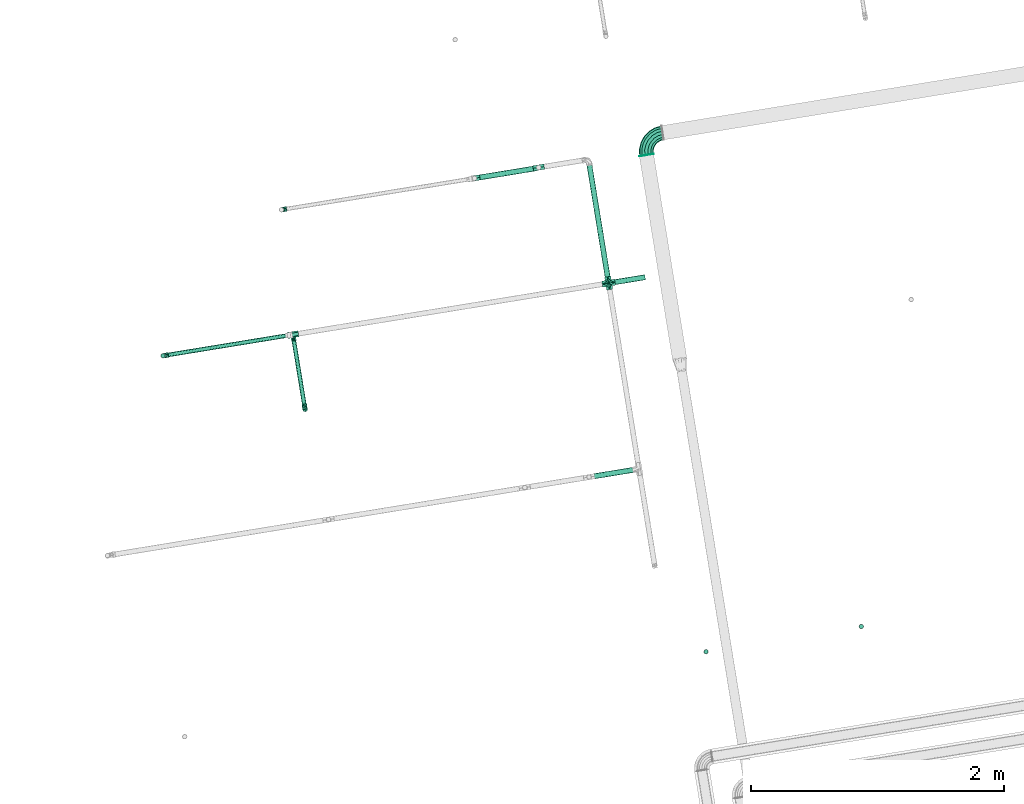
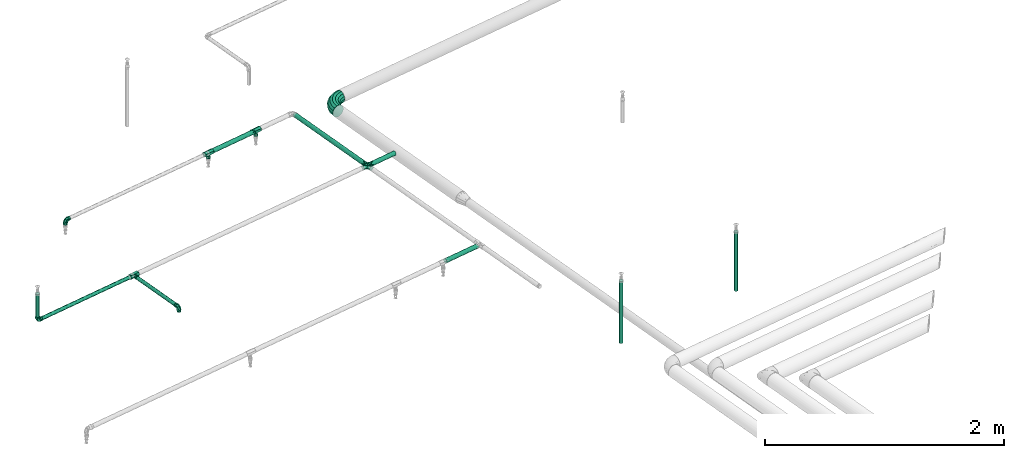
# One storey, part 22 of 46: 9 flow fittings, 9 flow segments.
"""IFC2X3 building model written with IfcOpenShell, lengths in millimetres."""

import ifcopenshell
import ifcopenshell.guid

model = None  # the IFC model being written
_history = None  # IfcOwnerHistory: only IFC2X3 demands one
_inside = {}  # id of a spatial element -> (the spatial element, [elements in it])
_under = {}  # id of a project, library or spatial element -> (it, [spatial elements below it])
_declared = {}  # id of a project -> (the project, [libraries it declares])
_typed = {}  # id of a type object -> (the type object, [elements of that type])
_made_of = {}  # id of a material, layer set ... -> (it, [elements and type objects made of it])


def new_model(schema):
    """Start an empty IFC model of exactly this schema.

    Asked for "IFC4X3", IfcOpenShell would pick the latest addendum, in which some entities
    have other attributes; the version numbers below select the first issue.
    IFC2X3 requires an IfcOwnerHistory on every rooted entity: one is made here for all.
    """
    global model, _history
    if schema == "IFC4X3":
        model = ifcopenshell.file(schema_version=(4, 3, 0, 0))
    else:
        model = ifcopenshell.file(schema=schema)
    _inside.clear()
    _under.clear()
    _declared.clear()
    _typed.clear()
    _made_of.clear()
    _history = None
    if model.schema == "IFC2X3":
        org = make("IfcOrganization", Name="unknown")
        user = make(
            "IfcPersonAndOrganization",
            ThePerson=make("IfcPerson", FamilyName="unknown"),
            TheOrganization=org,
        )
        app = make(
            "IfcApplication",
            ApplicationDeveloper=org,
            Version="unknown",
            ApplicationFullName="unknown",
            ApplicationIdentifier="unknown",
        )
        _history = make(
            "IfcOwnerHistory",
            OwningUser=user,
            OwningApplication=app,
            ChangeAction="ADDED",
            CreationDate=0,
        )
    return model


def make(cls, **values):
    """One entity of the class cls with the attributes given. An attribute that is None is left unset."""
    return model.create_entity(
        cls, **{name: value for name, value in values.items() if value is not None}
    )


def entity(cls, *values):
    """Any entity or typed value of the class cls, its attributes in the order of the schema. None: left unset."""
    e = model.create_entity(cls)
    for i, value in enumerate(values):
        if value is not None:
            e[i] = value
    return e


def rooted(cls, **values):
    """An entity with a GlobalId (a new one), such as an element, a storey or a relation."""
    return make(cls, GlobalId=ifcopenshell.guid.new(), OwnerHistory=_history, **values)


def si_unit(unit_type, name, prefix=None):
    """IfcSIUnit, for example si_unit("LENGTHUNIT", "METRE", prefix="MILLI")."""
    return make("IfcSIUnit", UnitType=unit_type, Prefix=prefix, Name=name)


def converted_unit(unit_type, name, factor, base, dimensions=None, offset=None):
    """IfcConversionBasedUnit, such as the inch: factor (a typed value) times the base unit."""
    return make(
        "IfcConversionBasedUnit"
        if offset is None
        else "IfcConversionBasedUnitWithOffset",
        ConversionOffset=offset,
        Dimensions=None
        if dimensions is None
        else entity("IfcDimensionalExponents", *dimensions),
        UnitType=unit_type,
        Name=name,
        ConversionFactor=make(
            "IfcMeasureWithUnit", ValueComponent=factor, UnitComponent=base
        ),
    )


def derived_unit(unit_type, elements):
    """IfcDerivedUnit: a product of units, each with its exponent."""
    return make(
        "IfcDerivedUnit",
        Elements=[
            make("IfcDerivedUnitElement", Unit=unit, Exponent=power)
            for unit, power in elements
        ],
        UnitType=unit_type,
    )


def assignment(units):
    """IfcUnitAssignment: the units of a project."""
    return None if units is None else make("IfcUnitAssignment", Units=units)


def point(xyz):
    """IfcCartesianPoint."""
    return None if xyz is None else make("IfcCartesianPoint", Coordinates=xyz)


def direction(xyz):
    """IfcDirection."""
    return None if xyz is None else make("IfcDirection", DirectionRatios=xyz)


def frame(location, z_axis=None, x_axis=None):
    """IfcAxis2Placement3D, a coordinate frame: its origin and axes. An axis left out is left unset."""
    return make(
        "IfcAxis2Placement3D",
        Location=point(location),
        Axis=direction(z_axis),
        RefDirection=direction(x_axis),
    )


def frame_2d(location, x_axis=None):
    """IfcAxis2Placement2D, a coordinate frame in the plane: its origin and x axis."""
    return make(
        "IfcAxis2Placement2D", Location=point(location), RefDirection=direction(x_axis)
    )


def origin():
    """The frame at (0, 0, 0) with its axes left unset."""
    return frame((0.0, 0.0, 0.0))


def origin_with_axes():
    """The frame at (0, 0, 0) with the z axis (0, 0, 1) and the x axis (1, 0, 0) written out."""
    return frame((0.0, 0.0, 0.0), z_axis=(0.0, 0.0, 1.0), x_axis=(1.0, 0.0, 0.0))


def origin_2d_with_axis():
    """The frame at (0, 0) in the plane with the x axis (1, 0) written out."""
    return frame_2d((0.0, 0.0), x_axis=(1.0, 0.0))


def place(relative_to, where):
    """IfcLocalPlacement: puts the frame where relative to a parent placement (None: the world)."""
    return make(
        "IfcLocalPlacement", PlacementRelTo=relative_to, RelativePlacement=where
    )


def context(
    kind, dimensions, precision=None, world=None, true_north=None, identifier=None
):
    """IfcGeometricRepresentationContext, for example the 3D "Model" context."""
    return make(
        "IfcGeometricRepresentationContext",
        ContextIdentifier=identifier,
        ContextType=kind,
        CoordinateSpaceDimension=dimensions,
        Precision=precision,
        WorldCoordinateSystem=world,
        TrueNorth=true_north,
    )


def subcontext(parent, identifier, kind, view, scale=None):
    """IfcGeometricRepresentationSubContext, for example "Body" below "Model"."""
    return make(
        "IfcGeometricRepresentationSubContext",
        ContextIdentifier=identifier,
        ContextType=kind,
        ParentContext=parent,
        TargetScale=scale,
        TargetView=view,
    )


def project(units=None, contexts=None):
    """IfcProject with its units and contexts."""
    return rooted(
        "IfcProject",
        Name="project",
        RepresentationContexts=contexts,
        UnitsInContext=assignment(units),
    )


def spatial(cls, under=None, at=None, **own):
    """A site, building, storey or space (cls), placed at a placement, below another one or the project."""
    s = rooted(cls, ObjectPlacement=at, **own)
    if under is not None:
        _under.setdefault(under.id(), (under, []))[1].append(s)
    return s


def profile(cls, at=None, kind="AREA", **sizes):
    """A parametric profile (cls). Its sizes go by their IFC names, for example OverallWidth=200.0."""
    return make(cls, ProfileType=kind, Position=at, **sizes)


def circle(**sizes):
    """IfcCircleProfileDef."""
    return profile("IfcCircleProfileDef", **sizes)


def extrude(swept, where, along, depth):
    """IfcExtrudedAreaSolid: the profile swept, set in the frame where, extruded along a direction by depth."""
    return make(
        "IfcExtrudedAreaSolid",
        SweptArea=swept,
        Position=where,
        ExtrudedDirection=direction(along),
        Depth=depth,
    )


def faces_of(points, faces, orient=None, outer=None):
    """IfcFace entities. A face is a list of loops; a loop is a list of indices into points, from 0.

    orient and outer hold one flag for each loop. By default every Orientation is true, the
    first loop of a face is its IfcFaceOuterBound and the others are IfcFaceBound.
    """
    made = []
    for i, loops in enumerate(faces):
        bounds = []
        for j, loop in enumerate(loops):
            is_outer = j == 0 if outer is None else outer[i][j]
            bounds.append(
                make(
                    "IfcFaceOuterBound" if is_outer else "IfcFaceBound",
                    Bound=make("IfcPolyLoop", Polygon=[points[k] for k in loop]),
                    Orientation=True if orient is None else orient[i][j],
                )
            )
        made.append(make("IfcFace", Bounds=bounds))
    return made


def faceted_brep(points, faces, orient=None, outer=None, voids=None):
    """IfcFacetedBrep: a solid bounded by flat faces; with voids (closed shells), ...WithVoids."""
    shared = [point(p) for p in points]
    hull = make("IfcClosedShell", CfsFaces=faces_of(shared, faces, orient, outer))
    if voids is None:
        return make("IfcFacetedBrep", Outer=hull)
    return make(
        "IfcFacetedBrepWithVoids",
        Outer=hull,
        Voids=[
            make(cls, CfsFaces=faces_of(shared, fs, o, b)) for cls, fs, o, b in voids
        ],
    )


def shape(context_of_items, identifier, shape_type, items):
    """IfcShapeRepresentation: the items that make up one representation, for example the "Body"."""
    return make(
        "IfcShapeRepresentation",
        ContextOfItems=context_of_items,
        RepresentationIdentifier=identifier,
        RepresentationType=shape_type,
        Items=items,
    )


def source(mapping_origin, context_of_items, identifier, shape_type, items):
    """IfcRepresentationMap: a shape defined once, which mapped items show again and again."""
    return make(
        "IfcRepresentationMap",
        MappingOrigin=mapping_origin,
        MappedRepresentation=shape(context_of_items, identifier, shape_type, items),
    )


def transform(
    local_origin,
    x_axis=None,
    y_axis=None,
    z_axis=None,
    scale=None,
    scale2=None,
    scale3=None,
    uniform=True,
):
    """IfcCartesianTransformationOperator3D, or its non-uniform kind. x_axis, y_axis, z_axis: its Axis1, 2, 3."""
    if uniform:
        return make(
            "IfcCartesianTransformationOperator3D",
            Axis1=direction(x_axis),
            Axis2=direction(y_axis),
            LocalOrigin=point(local_origin),
            Scale=scale,
            Axis3=direction(z_axis),
        )
    return make(
        "IfcCartesianTransformationOperator3DnonUniform",
        Axis1=direction(x_axis),
        Axis2=direction(y_axis),
        LocalOrigin=point(local_origin),
        Scale=scale,
        Axis3=direction(z_axis),
        Scale2=scale2,
        Scale3=scale3,
    )


def mapped(mapping_source, mapping_target):
    """IfcMappedItem: shows the shape of a source again, moved by a transform."""
    return make(
        "IfcMappedItem", MappingSource=mapping_source, MappingTarget=mapping_target
    )


def material(Name=None, Category=None):
    """IfcMaterial."""
    return make("IfcMaterial", Name=Name, Category=Category)


def made_of(thing, what):
    """Note that an element or type object is made of a material, layer set ...; save() writes the relation."""
    if what is not None:
        _made_of.setdefault(what.id(), (what, []))[1].append(thing)
    return thing


def type_object(cls, material=None, **own):
    """A type object (cls), such as IfcWallType, which elements share."""
    return made_of(rooted(cls, **own), material)


def element(
    cls,
    number,
    at=None,
    inside=None,
    cuts=None,
    type_object=None,
    material=None,
    context=None,
    identifier="Body",
    shape_type=None,
    held_by="IfcProductDefinitionShape",
    body=None,
    shapes=None,
    **own,
):
    """One element of the class cls, such as IfcWall. Its Tag is "e" and its number.

    at: its placement. inside: the storey or other place that contains it. cuts: it is an
    opening in that element (IfcRelVoidsElement). A single representation is given by context,
    identifier, shape_type and body (its items); several are given by shapes. held_by: the class
    of the entity that holds the representations. save() writes the other relations.
    """
    e = rooted(cls, Tag="e%d" % number, ObjectPlacement=at, **own)
    if body is not None:
        shapes = [shape(context, identifier, shape_type, body)]
    if shapes is not None:
        e.Representation = make(held_by, Representations=shapes)
    if inside is not None:
        _inside.setdefault(inside.id(), (inside, []))[1].append(e)
    if cuts is not None:
        rooted(
            "IfcRelVoidsElement", RelatingBuildingElement=cuts, RelatedOpeningElement=e
        )
    if type_object is not None:
        _typed.setdefault(type_object.id(), (type_object, []))[1].append(e)
    return made_of(e, material)


def aggregate(whole, parts):
    """IfcRelAggregates: a whole, such as a stair, and the parts it consists of."""
    return rooted("IfcRelAggregates", RelatingObject=whole, RelatedObjects=parts)


def save(model, path):
    """Write the relations noted so far, then the file.

    IfcRelAggregates (storeys below a building ...), IfcRelContainedInSpatialStructure (elements
    in a storey), IfcRelDefinesByType, IfcRelAssociatesMaterial and IfcRelDeclares: one each for
    every whole, place, type object, material and project.
    """
    for whole, parts in _under.values():
        aggregate(whole, parts)
    for where, things in _inside.values():
        rooted(
            "IfcRelContainedInSpatialStructure",
            RelatedElements=things,
            RelatingStructure=where,
        )
    for kind, things in _typed.values():
        rooted("IfcRelDefinesByType", RelatedObjects=things, RelatingType=kind)
    for what, things in _made_of.values():
        rooted("IfcRelAssociatesMaterial", RelatedObjects=things, RelatingMaterial=what)
    for by, libraries in _declared.values():
        rooted("IfcRelDeclares", RelatingContext=by, RelatedDefinitions=libraries)
    model.write(path)


model = new_model("IFC2X3")

# Units and contexts
model_context = context("Model", 3, precision=0.01, world=origin(), true_north=direction((6.12323399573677e-17, 1.0)))
plan_context = context("Plan", 3, precision=1e-05, world=origin_with_axes())
body_context = subcontext(model_context, "Body", "Model", "MODEL_VIEW")
ifc_project = project(units=[converted_unit("PLANEANGLEUNIT", "DEGREE", entity("IfcPositiveLengthMeasure", 0.0174532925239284), si_unit("PLANEANGLEUNIT", "RADIAN"), dimensions=[0, 0, 0, 0, 0, 0, 0]), si_unit("AREAUNIT", "SQUARE_METRE"), si_unit("LENGTHUNIT", "METRE", prefix="MILLI"), si_unit("MASSUNIT", "GRAM", prefix="KILO"), si_unit("POWERUNIT", "WATT"), si_unit("PRESSUREUNIT", "PASCAL", prefix="KILO"), si_unit("FORCEUNIT", "NEWTON", prefix="KILO"), si_unit("ELECTRICVOLTAGEUNIT", "VOLT"), si_unit("ELECTRICCURRENTUNIT", "AMPERE"), si_unit("THERMODYNAMICTEMPERATUREUNIT", "DEGREE_CELSIUS"), si_unit("TIMEUNIT", "SECOND"), si_unit("VOLUMEUNIT", "CUBIC_METRE"), derived_unit("LINEARVELOCITYUNIT", [(si_unit("LENGTHUNIT", "METRE"), 1), (si_unit("TIMEUNIT", "SECOND"), -1)]), derived_unit("VOLUMETRICFLOWRATEUNIT", [(si_unit("VOLUMEUNIT", "CUBIC_METRE"), 1), (si_unit("TIMEUNIT", "SECOND"), -1)]), derived_unit("THERMALTRANSMITTANCEUNIT", [(si_unit("POWERUNIT", "WATT"), 1), (si_unit("THERMODYNAMICTEMPERATUREUNIT", "KELVIN"), -1), (si_unit("AREAUNIT", "SQUARE_METRE"), -1)]), derived_unit("SOUNDPRESSUREUNIT", [(si_unit("PRESSUREUNIT", "PASCAL"), 1)])], contexts=[model_context, plan_context])

# Site, building, storey
site_placement = place(None, frame((-3.09682673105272e-06, 1.93776733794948e-05, 0.0), z_axis=(0.0, 0.0, 1.0), x_axis=(-0.160806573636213, 0.986985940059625, 0.0)))
site = spatial("IfcSite", under=ifc_project, at=site_placement, Name="Default", CompositionType="ELEMENT")
building_placement = place(site_placement, frame((0.0, 0.0, 0.0), z_axis=(0.0, 0.0, 1.0), x_axis=(1.0, -2.77555756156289e-17, 0.0)))
building = spatial("IfcBuilding", under=site, at=building_placement, Name="Bygning (endres i Project Information)", CompositionType="ELEMENT")
storey_placement = place(building_placement, frame((0.0, 0.0, 51360.0000000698), z_axis=(0.0, 0.0, 1.0), x_axis=(1.0, -2.77555756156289e-17, 0.0)))
storey = spatial("IfcBuildingStorey", under=building, at=storey_placement, Name="H01-Nivå D+0,36", CompositionType="ELEMENT", Elevation=51360.0000000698)

# Flow fittings
ifc_material_1 = material(Name="3320.001")
pipe_fitting_type_1 = type_object("IfcPipeFittingType", Name="Bend sveist:EN 10253-1 S235 3D ISO", PredefinedType="NOTDEFINED", material=ifc_material_1)
shared_shape_1 = source(origin(), body_context, "Body", "Brep", [
    faceted_brep([(-98.6091776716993, -49.9893123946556, 0.0), (-100.073997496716, -44.5225303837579, 24.7964556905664), (-153.0, -51.4903708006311, 24.7964556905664), (-153.0, -57.1500000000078, 0.0), (-104.178331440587, -29.2049475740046, 44.6816692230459), (-153.0, -35.6324421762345, 44.6816692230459), (-110.109265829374, -7.07039909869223, 55.7171301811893), (-153.0, -12.7170713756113, 55.7171301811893), (-116.692106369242, 17.4970962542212, 55.7171301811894), (-153.0, 12.7170713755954, 55.7171301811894), (-122.62304075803, 39.6316447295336, 44.6816692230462), (-153.0, 35.6324421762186, 44.6816692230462), (-126.7273747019, 54.9492275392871, 24.7964556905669), (-153.0, 51.4903708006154, 24.7964556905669), (-128.192194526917, 60.416009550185, 0.0), (-153.0, 57.1499999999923, 0.0), (-126.7273747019, 54.9492275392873, -24.7964556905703), (-153.0, 51.4903708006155, -24.7964556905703), (-122.62304075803, 39.6316447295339, -44.6816692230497), (-153.0, 35.6324421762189, -44.6816692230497), (-116.692106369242, 17.4970962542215, -55.7171301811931), (-153.0, 12.7170713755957, -55.7171301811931), (-110.109265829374, -7.07039909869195, -55.7171301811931), (-153.0, -12.717071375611, -55.7171301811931), (-104.178331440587, -29.2049475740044, -44.6816692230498), (-153.0, -35.6324421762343, -44.6816692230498), (-100.073997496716, -44.5225303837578, -24.7964556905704), (-153.0, -51.4903708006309, -24.7964556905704), (-47.924999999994, -28.9952386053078, 0.0), (-50.7548145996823, -24.0938559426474, 24.7964556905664), (-58.6837789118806, -10.3604869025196, 44.6816692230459), (-70.1414643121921, 9.48480634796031, 55.7171301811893), (-82.8585356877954, 31.5114200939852, 55.7171301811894), (-94.316221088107, 51.3567133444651, 44.6816692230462), (-102.245185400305, 65.0900823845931, 24.7964556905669), (-105.074999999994, 69.9914650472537, 0.0), (-102.245185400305, 65.0900823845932, -24.7964556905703), (-94.3162210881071, 51.3567133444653, -44.6816692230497), (-82.8585356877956, 31.5114200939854, -55.7171301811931), (-70.1414643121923, 9.48480634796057, -55.7171301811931), (-58.6837789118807, -10.3604869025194, -44.6816692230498), (-50.7548145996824, -24.0938559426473, -24.7964556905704), (-4.40150993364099, 4.40150993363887, 0.0), (-8.40347211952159, 8.40347211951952, 24.7964556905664), (-19.6167209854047, 19.6167209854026, 44.6816692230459), (-35.8203350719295, 35.8203350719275, 55.7171301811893), (-53.8049898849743, 53.8049898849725, 55.7171301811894), (-70.0086039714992, 70.0086039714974, 44.6816692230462), (-81.2218528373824, 81.2218528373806, 24.7964556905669), (-85.2238150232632, 85.2238150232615, 0.0), (-81.2218528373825, 81.2218528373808, -24.7964556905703), (-70.0086039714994, 70.0086039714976, -44.6816692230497), (-53.8049898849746, 53.8049898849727, -55.7171301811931), (-35.8203350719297, 35.8203350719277, -55.7171301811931), (-19.6167209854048, 19.6167209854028, -44.6816692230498), (-8.4034721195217, 8.40347211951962, -24.7964556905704), (28.9952386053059, 47.9249999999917, 0.0), (24.0938559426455, 50.7548145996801, 24.7964556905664), (10.3604869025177, 58.6837789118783, 44.6816692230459), (-9.4848063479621, 70.14146431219, 55.7171301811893), (-31.5114200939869, 82.8585356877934, 55.7171301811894), (-51.3567133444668, 94.3162210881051, 44.6816692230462), (-65.0900823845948, 102.245185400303, 24.7964556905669), (-69.9914650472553, 105.074999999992, 0.0), (-65.0900823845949, 102.245185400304, -24.7964556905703), (-51.356713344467, 94.3162210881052, -44.6816692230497), (-31.5114200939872, 82.8585356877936, -55.7171301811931), (-9.48480634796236, 70.1414643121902, -55.7171301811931), (10.3604869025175, 58.6837789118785, -44.6816692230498), (24.0938559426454, 50.7548145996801, -24.7964556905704), (49.989312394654, 98.6091776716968, 0.0), (44.5225303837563, 100.073997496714, 24.7964556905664), (29.204947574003, 104.178331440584, 44.6816692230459), (7.07039909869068, 110.109265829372, 55.7171301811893), (-17.4970962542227, 116.69210636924, 55.7171301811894), (-39.6316447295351, 122.623040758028, 44.6816692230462), (-54.9492275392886, 126.727374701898, 24.7964556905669), (-60.4160095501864, 128.192194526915, 0.0), (-54.9492275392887, 126.727374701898, -24.7964556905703), (-39.6316447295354, 122.623040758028, -44.6816692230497), (-17.497096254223, 116.69210636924, -55.7171301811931), (7.07039909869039, 110.109265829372, -55.7171301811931), (29.2049475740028, 104.178331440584, -44.6816692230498), (44.5225303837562, 100.073997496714, -24.7964556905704), (57.1500000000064, 153.0, 0.0), (51.4903708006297, 153.0, 24.7964556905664), (35.6324421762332, 153.0, 44.6816692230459), (12.71707137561, 153.0, 55.7171301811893), (-12.7170713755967, 153.0, 55.7171301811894), (-35.63244217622, 153.0, 44.6816692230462), (-51.4903708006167, 153.0, 24.7964556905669), (-57.1499999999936, 153.0, 0.0), (-51.4903708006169, 153.0, -24.7964556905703), (-35.6324421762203, 153.0, -44.6816692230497), (-12.717071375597, 153.0, -55.7171301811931), (12.7170713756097, 153.0, -55.7171301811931), (35.6324421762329, 153.0, -44.6816692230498), (51.4903708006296, 153.0, -24.7964556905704)], [[[0, 1, 2, 3]], [[1, 4, 5, 2]], [[4, 6, 7, 5]], [[6, 8, 9, 7]], [[8, 10, 11, 9]], [[10, 12, 13, 11]], [[12, 14, 15, 13]], [[14, 16, 17, 15]], [[16, 18, 19, 17]], [[18, 20, 21, 19]], [[20, 22, 23, 21]], [[22, 24, 25, 23]], [[24, 26, 27, 25]], [[26, 0, 3, 27]], [[28, 29, 1, 0]], [[29, 30, 4, 1]], [[30, 31, 6, 4]], [[31, 32, 8, 6]], [[32, 33, 10, 8]], [[33, 34, 12, 10]], [[34, 35, 14, 12]], [[35, 36, 16, 14]], [[36, 37, 18, 16]], [[37, 38, 20, 18]], [[38, 39, 22, 20]], [[39, 40, 24, 22]], [[40, 41, 26, 24]], [[41, 28, 0, 26]], [[42, 43, 29, 28]], [[43, 44, 30, 29]], [[44, 45, 31, 30]], [[45, 46, 32, 31]], [[46, 47, 33, 32]], [[47, 48, 34, 33]], [[48, 49, 35, 34]], [[49, 50, 36, 35]], [[50, 51, 37, 36]], [[51, 52, 38, 37]], [[52, 53, 39, 38]], [[53, 54, 40, 39]], [[54, 55, 41, 40]], [[55, 42, 28, 41]], [[56, 57, 43, 42]], [[57, 58, 44, 43]], [[58, 59, 45, 44]], [[59, 60, 46, 45]], [[60, 61, 47, 46]], [[61, 62, 48, 47]], [[62, 63, 49, 48]], [[63, 64, 50, 49]], [[64, 65, 51, 50]], [[65, 66, 52, 51]], [[66, 67, 53, 52]], [[67, 68, 54, 53]], [[68, 69, 55, 54]], [[69, 56, 42, 55]], [[70, 71, 57, 56]], [[71, 72, 58, 57]], [[72, 73, 59, 58]], [[73, 74, 60, 59]], [[74, 75, 61, 60]], [[75, 76, 62, 61]], [[76, 77, 63, 62]], [[77, 78, 64, 63]], [[78, 79, 65, 64]], [[79, 80, 66, 65]], [[80, 81, 67, 66]], [[81, 82, 68, 67]], [[82, 83, 69, 68]], [[83, 70, 56, 69]], [[84, 85, 71, 70]], [[85, 86, 72, 71]], [[86, 87, 73, 72]], [[87, 88, 74, 73]], [[88, 89, 75, 74]], [[89, 90, 76, 75]], [[90, 91, 77, 76]], [[91, 92, 78, 77]], [[92, 93, 79, 78]], [[93, 94, 80, 79]], [[94, 95, 81, 80]], [[95, 96, 82, 81]], [[96, 97, 83, 82]], [[97, 84, 70, 83]], [[3, 2, 5, 7, 9, 11, 13, 15, 17, 19, 21, 23, 25, 27]], [[97, 96, 95, 94, 93, 92, 91, 90, 89, 88, 87, 86, 85, 84]]]),
])
flow_fitting_1_placement = place(storey_placement, frame((1004893.45605167, -347096.584018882, 3299.95000040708), z_axis=(0.0, 0.0, 1.0), x_axis=(2.77555756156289e-17, 1.0, 0.0)))
element("IfcFlowFitting", 1, at=flow_fitting_1_placement, inside=storey, type_object=pipe_fitting_type_1, material=ifc_material_1, Name="Bend sveist:EN 10253-1 S235 3D ISO", ObjectType="Bend sveist:EN 10253-1 S235 3D ISO", context=body_context, shape_type="MappedRepresentation", body=[
    mapped(shared_shape_1, transform((0.0, 0.0, 0.0), scale=1.0)),
])
ifc_material_2 = material(Name="<Unnamed>")
pipe_fitting_type_2 = type_object("IfcPipeFittingType", Name="Sveis:Sveis", PredefinedType="NOTDEFINED", material=ifc_material_2)
shared_shape_2 = source(origin(), body_context, "Body", "SweptSolid", [
    extrude(circle(Radius=57.15, at=frame_2d((-2.60051383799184e-15, -9.23283724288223e-14), x_axis=(1.0, 0.0))), origin(), (0.0, 0.0, 1.0), 2.0),
])
flow_fitting_2_placement = place(storey_placement, frame((1004740.45605167, -347096.584018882, 3299.95000040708), z_axis=(-1.0, 2.77555756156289e-17, 0.0), x_axis=(0.0, 0.0, 1.0)))
element("IfcFlowFitting", 2, at=flow_fitting_2_placement, inside=storey, type_object=pipe_fitting_type_2, material=ifc_material_2, Name="Sveis:Sveis", ObjectType="Sveis:Sveis", context=body_context, shape_type="MappedRepresentation", body=[
    mapped(shared_shape_2, transform((0.0, 0.0, 0.0), scale=1.0)),
])
pipe_fitting_type_3 = type_object("IfcPipeFittingType", Name="RS_53_PIF_UN_Tee-Reduced-EN10241_MC_gen:RS_53_PIF_UN_Tee-Reduced-EN10241_MC_gen", PredefinedType="NOTDEFINED", material=ifc_material_1)
shared_shape_3 = source(origin(), body_context, "Body", "Brep", [
    faceted_brep([(44.0, 24.4999999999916, 0.0), (44.0, 18.3749999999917, 10.6088111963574), (44.0, 12.2499999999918, 21.2176223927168), (44.0, 0.0, 21.2176223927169), (44.0, -12.2500000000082, 21.217622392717), (44.0, -18.3750000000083, 10.6088111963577), (44.0, -24.5000000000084, 0.0), (44.0, -21.6281924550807, -4.97411657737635), (44.0, -18.3750000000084, -10.6088111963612), (44.0, -12.2500000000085, -21.2176223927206), (44.0, 0.0, -21.2176223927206), (44.0, 12.2499999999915, -21.2176223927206), (44.0, 18.3749999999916, -10.6088111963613), (-44.0, -12.2500000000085, -21.2176223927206), (-44.0, -18.3750000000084, -10.6088111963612), (-44.0, -24.5000000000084, 0.0), (-44.0, -21.6281923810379, 4.97411670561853), (-44.0, -18.3750000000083, 10.6088111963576), (-44.0, -12.2500000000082, 21.217622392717), (-44.0, 0.0, 21.2176223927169), (-44.0, 12.2499999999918, 21.2176223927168), (-44.0, 18.7563847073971, 9.94823350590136), (-44.0, 24.4999999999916, 0.0), (-44.0, 18.3749999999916, -10.6088111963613), (-44.0, 12.2499999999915, -21.2176223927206), (-44.0, 0.0, -21.2176223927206), (-8.07289668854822, -19.7195683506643, 9.70917342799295), (3.60420662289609, -14.9391367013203, 19.4183468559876), (15.7135516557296, -22.1097841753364, 4.85458671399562), (-19.7499999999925, -24.5000000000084, 0.0), (11.6771033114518, -19.7195683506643, 9.70917342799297), (19.7500000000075, -24.5000000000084, 0.0), (-15.715142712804, -22.1101683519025, -4.85429113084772), (-3.61057085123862, -14.9406734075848, -19.4171645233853), (-11.6802854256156, -19.7203367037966, -9.70858226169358), (8.06971457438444, -19.7203367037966, -9.70858226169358), (9.87500000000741, -51.0, -17.1040017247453), (14.8125000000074, -51.0, -8.55200086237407), (19.7500000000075, -51.0, 0.0), (14.8125000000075, -51.0, 8.55200086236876), (9.87500000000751, -51.0, 17.1040017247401), (0.0, -51.0, 17.1040017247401), (-9.87499999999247, -51.0, 17.1040017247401), (-14.8124999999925, -51.0, 8.55200086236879), (-19.7499999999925, -51.0, 0.0), (-14.8124999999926, -51.0, -8.55200086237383), (-9.87499999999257, -51.0, -17.1040017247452), (0.0, -51.0, -17.1040017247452)], [[[0, 1, 2, 3, 4, 5, 6, 7, 8, 9, 10, 11, 12]], [[13, 14, 15, 16, 17, 18, 19, 20, 21, 22, 23, 24, 25]], [[1, 0, 22, 21, 20, 2]], [[2, 20, 19, 3]], [[26, 17, 16]], [[18, 27, 19]], [[28, 6, 5]], [[29, 16, 15]], [[5, 27, 30, 28]], [[5, 4, 27]], [[27, 17, 26]], [[17, 27, 18]], [[26, 16, 29]], [[6, 28, 31]], [[19, 27, 3]], [[4, 3, 27]], [[32, 15, 14]], [[14, 33, 34, 32]], [[31, 7, 6]], [[35, 8, 7]], [[8, 33, 9]], [[33, 8, 35]], [[15, 32, 29]], [[24, 23, 22, 0, 12, 11]], [[25, 24, 11, 10]], [[14, 13, 33]], [[13, 25, 33]], [[35, 7, 31]], [[10, 33, 25]], [[10, 9, 33]], [[36, 37, 38, 39, 40, 41, 42, 43, 44, 45, 46, 47]], [[29, 45, 44]], [[34, 46, 45]], [[35, 36, 47]], [[33, 46, 34]], [[37, 36, 35]], [[45, 29, 32, 34]], [[31, 37, 35]], [[37, 31, 38]], [[47, 46, 33]], [[35, 47, 33]], [[31, 39, 38]], [[30, 40, 39]], [[26, 42, 41]], [[27, 40, 30]], [[43, 42, 26]], [[39, 31, 28, 30]], [[29, 43, 26]], [[43, 29, 44]], [[41, 40, 27]], [[26, 41, 27]]]),
])
for number, where, z_axis, x_axis in (
    (3, (1004777.14983251, -345724.575122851, 3458.80002629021), (1.0, -2.77555756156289e-17, 0.0), (2.77555756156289e-17, 1.0, 0.0)),
    (4, (1004779.64983251, -346239.575122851, 3458.80002629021), (1.0, -2.77555756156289e-17, 0.0), (2.77555756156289e-17, 1.0, 0.0)),
    (5, (1003788.36764383, -344109.409898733, 3458.79999913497), (0.0, 0.0, 1.0), (-2.77555756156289e-17, -1.0, 0.0)),
):
    element("IfcFlowFitting", number, at=place(storey_placement, frame(where, z_axis=z_axis, x_axis=x_axis)), inside=storey, type_object=pipe_fitting_type_3, material=ifc_material_1, Name="RS_53_PIF_UN_Tee-Reduced-EN10241_MC_gen:RS_53_PIF_UN_Tee-Reduced-EN10241_MC_gen", ObjectType="RS_53_PIF_UN_Tee-Reduced-EN10241_MC_gen:RS_53_PIF_UN_Tee-Reduced-EN10241_MC_gen", context=body_context, shape_type="MappedRepresentation", body=[
        mapped(shared_shape_3, transform((0.0, 0.0, 0.0), scale=1.0)),
    ])
pipe_fitting_type_4 = type_object("IfcPipeFittingType", Name="RS_53_PIF_UN_Elbow-EN10241_NOR:RS_53_PIF_UN_Elbow-EN10241_NOR", PredefinedType="NOTDEFINED", material=ifc_material_1)
shared_shape_4 = source(origin(), body_context, "Body", "Brep", [
    faceted_brep([(-43.0, 5.11167614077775, 19.0770350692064), (-43.0, 17.1040017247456, 9.87499999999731), (-43.0, 19.7500000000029, 0.0), (-43.0, 17.1040017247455, -9.87500000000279), (-43.0, 5.11167614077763, -19.0770350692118), (-43.0, -5.11167614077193, -19.0770350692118), (-43.0, -17.1040017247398, -9.87500000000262), (-43.0, -19.7499999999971, 0.0), (-43.0, -17.1040017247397, 9.87499999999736), (-43.0, -5.11167614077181, 19.0770350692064), (-21.7499999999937, -19.7499999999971, 0.0), (-21.7499999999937, -15.1293510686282, -12.6950870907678), (-21.7499999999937, -3.42946974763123, -19.4499675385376), (-21.7499999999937, 15.1294711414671, -12.694943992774), (-21.7499999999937, 19.7500000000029, 0.0), (-21.7499999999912, 5.85000069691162, -16.072455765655), (-21.7499999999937, 15.1294711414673, 12.6949439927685), (-21.7499999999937, 3.42965371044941, 19.4499351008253), (-21.7499999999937, -15.1293510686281, 12.6950870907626), (-5.41688095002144, -10.3200693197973, 0.0), (0.655979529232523, -2.00253561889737, 16.4678355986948), (-11.0449015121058, 9.84579831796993, 18.897380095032), (-18.5589216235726, 21.7499999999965, 6.75491881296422), (-15.1293490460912, 21.7499999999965, 12.6950895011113), (-20.3357864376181, 20.3357864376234, 0.0), (-19.7499999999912, 21.7499999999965, 0.0), (14.190054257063, 1.0, 0.0), (12.6950125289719, 21.7499999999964, 15.1294136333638), (6.75482439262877, 21.7499999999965, 18.5589559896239), (17.2232575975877, 12.3200689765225, 0.0), (-6.754824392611, 21.7499999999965, 18.558955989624), (19.7500000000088, 21.7499999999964, 0.0), (18.5589216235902, 21.7499999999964, 6.75491881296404), (0.0, 21.7499999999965, 19.7499999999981), (-18.5589216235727, 21.7499999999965, -6.75491881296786), (-10.1618436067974, 10.1618877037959, -19.0082217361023), (1.2569166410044, -0.890945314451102, -16.7093898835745), (0.0, 21.7499999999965, -19.7500000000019), (-6.75482439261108, 21.7499999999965, -18.5589559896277), (-12.6950125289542, 21.7499999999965, -15.1294136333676), (18.5589216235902, 21.7499999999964, -6.75491881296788), (15.1293490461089, 21.7499999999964, -12.6950895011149), (6.75482439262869, 21.7499999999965, -18.5589559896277), (-9.8749999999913, 43.0, 17.1040017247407), (0.0, 43.0, 19.7499999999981), (9.8750000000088, 43.0, 17.1040017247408), (19.0770350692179, 43.0, 5.11167614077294), (19.0770350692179, 43.0, -5.11167614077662), (9.87500000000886, 43.0, -17.1040017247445), (0.0, 43.0, -19.7500000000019), (-9.87499999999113, 43.0, -17.1040017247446), (-19.0770350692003, 43.0, -5.11167614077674), (-19.0770350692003, 43.0, 5.11167614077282)], [[[0, 1, 2, 3, 4, 5, 6, 7, 8, 9]], [[7, 6, 10]], [[6, 11, 10]], [[11, 6, 5]], [[11, 5, 12]], [[13, 4, 3]], [[14, 3, 2]], [[4, 13, 15, 12]], [[13, 3, 14]], [[4, 12, 5]], [[2, 1, 14]], [[1, 16, 14]], [[16, 1, 0]], [[16, 0, 17]], [[18, 9, 8]], [[10, 8, 7]], [[9, 18, 17]], [[18, 8, 10]], [[9, 17, 0]], [[18, 19, 20]], [[20, 21, 17]], [[22, 16, 23]], [[16, 17, 21]], [[24, 14, 22]], [[22, 25, 24]], [[14, 16, 22]], [[20, 26, 27]], [[27, 28, 20]], [[26, 29, 27]], [[23, 21, 30]], [[31, 32, 29]], [[18, 20, 17]], [[26, 20, 19]], [[21, 23, 16]], [[18, 10, 19]], [[33, 21, 20]], [[33, 30, 21]], [[27, 29, 32]], [[33, 20, 28]], [[14, 24, 34]], [[25, 34, 24]], [[12, 35, 36]], [[14, 34, 13]], [[36, 19, 11]], [[37, 35, 38]], [[38, 35, 39]], [[10, 11, 19]], [[34, 39, 13]], [[37, 36, 35]], [[36, 11, 12]], [[39, 35, 13]], [[40, 31, 29]], [[41, 36, 42]], [[36, 37, 42]], [[41, 40, 29]], [[26, 36, 41]], [[29, 26, 41]], [[19, 36, 26]], [[13, 35, 12, 15]], [[43, 44, 45, 46, 47, 48, 49, 50, 51, 52]], [[49, 37, 38]], [[50, 38, 39]], [[49, 38, 50]], [[51, 50, 39]], [[51, 34, 25]], [[34, 51, 39]], [[52, 25, 22]], [[22, 23, 52]], [[30, 43, 23]], [[52, 23, 43]], [[44, 43, 30]], [[33, 44, 30]], [[25, 52, 51]], [[44, 33, 28]], [[45, 28, 27]], [[44, 28, 45]], [[46, 45, 27]], [[46, 32, 31]], [[32, 46, 27]], [[47, 31, 40]], [[40, 41, 47]], [[42, 48, 41]], [[47, 41, 48]], [[49, 48, 42]], [[37, 49, 42]], [[31, 47, 46]]]),
])
flow_fitting_3_placement = place(storey_placement, frame((1004777.14983251, -344178.065872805, 3458.79999479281), z_axis=(1.0, -2.77555756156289e-17, 0.0), x_axis=(0.0, 0.0, 1.0)))
element("IfcFlowFitting", 6, at=flow_fitting_3_placement, inside=storey, type_object=pipe_fitting_type_4, material=ifc_material_1, Name="RS_53_PIF_UN_Elbow-EN10241_NOR:RS_53_PIF_UN_Elbow-EN10241_NOR", ObjectType="RS_53_PIF_UN_Elbow-EN10241_NOR:RS_53_PIF_UN_Elbow-EN10241_NOR", context=body_context, shape_type="MappedRepresentation", body=[
    mapped(shared_shape_4, transform((0.0, 0.0, 0.0), scale=1.0)),
])
pipe_fitting_type_5 = type_object("IfcPipeFittingType", Name="RS_53_PIF_UN_Elbow-EN10241_NOR:RS_53_PIF_UN_Elbow-EN10241_NOR", PredefinedType="NOTDEFINED", material=ifc_material_1)
for number, where, z_axis, x_axis in (
    (7, (1003189.72855232, -344109.409898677, 3458.8), (2.77555756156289e-17, 1.0, 0.0), (0.0, 0.0, 1.0)),
    (8, (1003788.36764383, -343069.023010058, 3458.79999913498), (-1.0, 2.77555756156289e-17, 0.0), (0.0, 0.0, -1.0)),
):
    element("IfcFlowFitting", number, at=place(storey_placement, frame(where, z_axis=z_axis, x_axis=x_axis)), inside=storey, type_object=pipe_fitting_type_5, material=ifc_material_1, Name="RS_53_PIF_UN_Elbow-EN10241_NOR:RS_53_PIF_UN_Elbow-EN10241_NOR", ObjectType="RS_53_PIF_UN_Elbow-EN10241_NOR:RS_53_PIF_UN_Elbow-EN10241_NOR", context=body_context, shape_type="MappedRepresentation", body=[
        mapped(shared_shape_4, transform((0.0, 0.0, 0.0), scale=1.0)),
    ])
pipe_fitting_type_6 = type_object("IfcPipeFittingType", Name="RS_53_PIF_UN_Cross-EN10241_MC_gen:RS_53_PIF_UN_Cross-EN10241_MC_gen", PredefinedType="NOTDEFINED", material=ifc_material_1)
shared_shape_5 = source(origin(), body_context, "Body", "Brep", [
    faceted_brep([(51.0, 12.2499999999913, -12.2500000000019), (51.0, 0.0, -24.5000000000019), (15.8118687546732, 15.8118687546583, -18.714561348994), (24.5000000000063, 24.4999999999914, 0.0), (51.0, 24.4999999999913, 0.0), (51.0, 19.2143723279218, -5.28562767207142), (-24.4999999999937, 24.4999999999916, 0.0), (-51.0, 18.3749999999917, -6.12500000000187), (-51.0, 24.4999999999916, 0.0), (20.1559343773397, 20.1559343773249, -9.35728067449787), (0.0, 0.0, -24.5000000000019), (-15.8118687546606, 15.8118687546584, -18.7145613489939), (-51.0, 0.0, -24.5000000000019), (24.5000000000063, -24.5000000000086, 0.0), (51.0, -18.3750000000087, -6.12500000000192), (51.0, -24.5000000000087, 0.0), (15.8118687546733, -15.8118687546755, -18.7145613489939), (51.0, -12.2500000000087, -12.2500000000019), (20.1559343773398, -20.1559343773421, -9.35728067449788), (51.0, -12.2500000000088, 12.2499999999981), (51.0, 0.0, 24.4999999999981), (15.8118687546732, -15.8118687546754, 18.7145613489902), (20.1559343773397, -20.155934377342, 9.35728067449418), (51.0, -19.2143724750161, 5.28562752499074), (0.0, 0.0, 24.4999999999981), (-15.8118687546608, -15.8118687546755, 18.7145613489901), (-51.0, 0.0, 24.4999999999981), (-24.4999999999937, -24.5000000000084, 0.0), (-51.0, -18.3750000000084, 6.12499999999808), (-51.0, -24.5000000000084, 0.0), (51.0, 18.3749999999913, 6.12499999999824), (-51.0, 19.2143723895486, 5.28562761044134), (20.1559343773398, 20.1559343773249, 9.35728067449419), (15.8118687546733, 15.8118687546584, 18.7145613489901), (51.0, 12.2499999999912, 12.2499999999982), (-15.8118687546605, 15.8118687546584, 18.7145613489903), (-12.2499999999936, -51.0, -12.2500000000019), (0.0, -51.0, -24.5000000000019), (12.2500000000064, -51.0, -12.2500000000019), (19.2143723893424, -51.0, -5.28562761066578), (24.5000000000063, -51.0, 0.0), (18.3750000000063, -51.0, 6.12499999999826), (12.2500000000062, -51.0, 12.2499999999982), (0.0, -51.0, 24.4999999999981), (-12.2499999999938, -51.0, 12.2499999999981), (-19.2143725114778, -51.0, 5.28562748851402), (-24.4999999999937, -51.0, 0.0), (-20.1559343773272, -20.155934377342, 9.35728067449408), (0.0, 51.0, 24.4999999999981), (-18.3749999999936, 51.0, 6.12499999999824), (-24.4999999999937, 51.0, 0.0), (24.5000000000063, 51.0, 0.0), (19.2143725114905, 51.0, 5.28562748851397), (18.3750000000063, 51.0, -6.12500000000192), (0.0, 51.0, -24.5000000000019), (-19.1158956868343, -19.115895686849, -10.1450468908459), (-13.7317913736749, -13.7317913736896, -20.2900937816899), (12.2500000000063, 51.0, -12.2500000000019), (-12.2499999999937, 51.0, -12.2500000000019), (-19.2143723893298, 51.0, -5.28562761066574), (-12.2499999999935, 51.0, 12.2499999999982), (12.2500000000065, 51.0, 12.2499999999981), (-20.1559343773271, 20.155934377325, 9.35728067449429), (-20.1559343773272, 20.155934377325, -9.35728067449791), (-51.0, -12.2500000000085, 12.2499999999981), (-51.0, 12.2499999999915, 12.2499999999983), (-51.0, 12.2499999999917, -12.2500000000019), (-51.0, -12.2500000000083, -12.2500000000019)], [[[0, 1, 2]], [[3, 4, 5]], [[6, 7, 8]], [[9, 3, 5]], [[2, 9, 0]], [[1, 10, 2]], [[11, 10, 12]], [[0, 9, 5]], [[13, 14, 15]], [[16, 1, 17]], [[10, 1, 16]], [[18, 16, 17]], [[18, 17, 14]], [[14, 13, 18]], [[19, 20, 21]], [[22, 13, 23]], [[21, 22, 19]], [[20, 24, 21]], [[25, 24, 26]], [[13, 15, 23]], [[27, 28, 29]], [[3, 30, 4]], [[6, 8, 31]], [[32, 33, 34]], [[33, 20, 34]], [[24, 20, 33]], [[35, 26, 24]], [[30, 3, 32]], [[32, 34, 30]], [[19, 22, 23]], [[36, 37, 38, 39, 40, 41, 42, 43, 44, 45, 46]], [[44, 43, 25]], [[47, 27, 45]], [[25, 47, 44]], [[43, 24, 25]], [[24, 48, 35]], [[27, 46, 45]], [[6, 49, 50]], [[13, 41, 40]], [[3, 51, 52]], [[22, 21, 42]], [[21, 43, 42]], [[24, 43, 21]], [[48, 24, 33]], [[41, 13, 22]], [[22, 42, 41]], [[44, 47, 45]], [[38, 37, 16]], [[13, 40, 39]], [[3, 53, 51]], [[18, 13, 39]], [[16, 18, 38]], [[37, 10, 16]], [[10, 54, 2]], [[38, 18, 39]], [[46, 55, 36]], [[56, 37, 36]], [[10, 37, 56]], [[55, 56, 36]], [[55, 46, 27]], [[53, 57, 54, 58, 59, 50, 49, 60, 48, 61, 52, 51]], [[61, 48, 33]], [[32, 3, 52]], [[33, 32, 61]], [[62, 35, 60]], [[35, 48, 60]], [[49, 6, 62]], [[62, 60, 49]], [[61, 32, 52]], [[58, 54, 11]], [[6, 50, 59]], [[63, 6, 59]], [[11, 63, 58]], [[54, 10, 11]], [[58, 63, 59]], [[2, 54, 57]], [[9, 2, 57]], [[9, 57, 53]], [[53, 3, 9]], [[29, 28, 64, 26, 65, 31, 8, 7, 66, 12, 67]], [[14, 17, 1, 0, 5, 4, 30, 34, 20, 19, 23, 15]], [[47, 64, 28]], [[25, 26, 64]], [[28, 27, 47]], [[35, 62, 65]], [[62, 6, 31]], [[65, 26, 35]], [[65, 62, 31]], [[47, 25, 64]], [[63, 66, 7]], [[7, 6, 63]], [[63, 11, 66]], [[67, 55, 29]], [[11, 12, 66]], [[55, 27, 29]], [[67, 12, 56]], [[56, 12, 10]], [[67, 56, 55]]]),
])
flow_fitting_4_placement = place(storey_placement, frame((1003788.36764383, -346638.795665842, 3458.79999913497), z_axis=(0.0, 0.0, -1.0), x_axis=(-2.77555756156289e-17, -1.0, 0.0)))
element("IfcFlowFitting", 9, at=flow_fitting_4_placement, inside=storey, type_object=pipe_fitting_type_6, material=ifc_material_1, Name="RS_53_PIF_UN_Cross-EN10241_MC_gen:RS_53_PIF_UN_Cross-EN10241_MC_gen", ObjectType="RS_53_PIF_UN_Cross-EN10241_MC_gen:RS_53_PIF_UN_Cross-EN10241_MC_gen", context=body_context, shape_type="MappedRepresentation", body=[
    mapped(shared_shape_5, transform((0.0, 0.0, 0.0), scale=1.0)),
])

# Flow segments
pipe_segment_type = type_object("IfcPipeSegmentType", Name="Pipe Types:Stålrør sveist og gjenget", PredefinedType="NOTDEFINED", material=ifc_material_1)
flow_segment_1_placement = place(storey_placement, frame((0.0, 0.0, 0.0), z_axis=(0.0, 0.0, 1.0), x_axis=(1.0, -2.77555756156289e-17, 0.0)))
element("IfcFlowSegment", 10, at=flow_segment_1_placement, inside=storey, type_object=pipe_segment_type, Name="Pipe Types:Stålrør sveist og gjenget", ObjectType="Pipe Types:Stålrør sveist og gjenget", context=body_context, shape_type="SweptSolid", body=[
    extrude(circle(Radius=16.8500004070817, at=origin_2d_with_axis()), frame((1000788.36764383, -348173.710112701, 3131.90153923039), z_axis=(0.0, -3.16675231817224e-07, 1.0), x_axis=(-1.0, 0.0, 0.0)), (0.0, 0.0, 1.0), 604.910586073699),
])
flow_segment_2_placement = place(storey_placement, frame((0.0, 0.0, 0.0), z_axis=(0.0, 0.0, 1.0), x_axis=(1.0, -2.77555756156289e-17, 0.0)))
element("IfcFlowSegment", 11, at=flow_segment_2_placement, inside=storey, type_object=pipe_segment_type, Name="Pipe Types:Stålrør sveist og gjenget", ObjectType="Pipe Types:Stålrør sveist og gjenget", context=body_context, shape_type="SweptSolid", body=[
    extrude(circle(Radius=16.8500004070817, at=origin_2d_with_axis()), frame((1000788.36764383, -346930.46291744, 3148.26666666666), z_axis=(0.0, 0.0, 1.0), x_axis=(-1.0, 0.0, 0.0)), (0.0, 0.0, 1.0), 636.733333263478),
])
flow_segment_3_placement = place(storey_placement, frame((0.0, 0.0, 0.0), z_axis=(0.0, 0.0, 1.0), x_axis=(1.0, -2.77555756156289e-17, 0.0)))
element("IfcFlowSegment", 12, at=flow_segment_3_placement, inside=storey, type_object=pipe_segment_type, Name="Pipe Types:Stålrør sveist og gjenget", ObjectType="Pipe Types:Stålrør sveist og gjenget", context=body_context, shape_type="SweptSolid", body=[
    extrude(circle(Radius=21.2000007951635, at=origin_2d_with_axis()), frame((1002299.88520526, -346609.195665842, 3458.8000262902), z_axis=(0.0, 1.0, 0.0), x_axis=(-1.0, 0.0, 0.0)), (0.0, 0.0, 1.0), 347.020542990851),
])
flow_segment_4_placement = place(storey_placement, frame((0.0, 0.0, 0.0), z_axis=(0.0, 0.0, 1.0), x_axis=(1.0, -2.77555756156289e-17, 0.0)))
element("IfcFlowSegment", 13, at=flow_segment_4_placement, inside=storey, type_object=pipe_segment_type, Name="Pipe Types:Stålrør sveist og gjenget", ObjectType="Pipe Types:Stålrør sveist og gjenget", context=body_context, shape_type="SweptSolid", body=[
    extrude(circle(Radius=21.2000007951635, at=origin_2d_with_axis()), frame((1004777.14983251, -346216.975122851, 3458.8000262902), z_axis=(0.0, 1.0, 0.0), x_axis=(1.0, 0.0, 0.0)), (0.0, 0.0, 1.0), 469.79999999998),
])
flow_segment_5_placement = place(storey_placement, frame((0.0, 0.0, 0.0), z_axis=(0.0, 0.0, 1.0), x_axis=(1.0, -2.77555756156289e-17, 0.0)))
element("IfcFlowSegment", 14, at=flow_segment_5_placement, inside=storey, type_object=pipe_segment_type, Name="Pipe Types:Stålrør sveist og gjenget", ObjectType="Pipe Types:Stålrør sveist og gjenget", context=body_context, shape_type="SweptSolid", body=[
    extrude(circle(Radius=21.2000007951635, at=origin_2d_with_axis()), frame((1003817.96764383, -346638.795665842, 3458.79999913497), z_axis=(1.0, 0.0, 0.0), x_axis=(0.0, -1.0, 0.0)), (0.0, 0.0, 1.0), 935.182188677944),
])
flow_segment_6_placement = place(storey_placement, frame((0.0, 0.0, 0.0), z_axis=(0.0, 0.0, 1.0), x_axis=(1.0, -2.77555756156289e-17, 0.0)))
element("IfcFlowSegment", 15, at=flow_segment_6_placement, inside=storey, type_object=pipe_segment_type, Name="Pipe Types:Stålrør sveist og gjenget", ObjectType="Pipe Types:Stålrør sveist og gjenget", context=body_context, shape_type="SweptSolid", body=[
    extrude(circle(Radius=16.8500004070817, at=frame_2d((-2.77213985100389e-08, 0.0), x_axis=(1.0, 0.0))), frame((1003213.62855232, -344109.409898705, 3458.79999913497), z_axis=(1.0, 0.0, 0.0), x_axis=(0.0, 1.0, 0.0)), (0.0, 0.0, 1.0), 542.839091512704),
])
flow_segment_7_placement = place(storey_placement, frame((0.0, 0.0, 0.0), z_axis=(0.0, 0.0, 1.0), x_axis=(1.0, -2.77555756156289e-17, 0.0)))
element("IfcFlowSegment", 16, at=flow_segment_7_placement, inside=storey, type_object=pipe_segment_type, Name="Pipe Types:Stålrør sveist og gjenget", ObjectType="Pipe Types:Stålrør sveist og gjenget", context=body_context, shape_type="SweptSolid", body=[
    extrude(circle(Radius=21.2000007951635, at=origin_2d_with_axis()), frame((1003788.36764383, -346930.845437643, 3458.79999913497), z_axis=(0.0, 1.0, 0.0), x_axis=(1.0, 0.0, 0.0)), (0.0, 0.0, 1.0), 262.449771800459),
])
flow_segment_8_placement = place(storey_placement, frame((0.0, 0.0, 0.0), z_axis=(0.0, 0.0, 1.0), x_axis=(1.0, -2.77555756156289e-17, 0.0)))
element("IfcFlowSegment", 17, at=flow_segment_8_placement, inside=storey, type_object=pipe_segment_type, Name="Pipe Types:Stålrør sveist og gjenget", ObjectType="Pipe Types:Stålrør sveist og gjenget", context=body_context, shape_type="SweptSolid", body=[
    extrude(circle(Radius=16.8500004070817, at=origin_2d_with_axis()), frame((1003788.36764383, -344068.143232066, 3458.79999913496), z_axis=(0.0, 1.0, 0.0), x_axis=(-1.0, 0.0, 0.0)), (0.0, 0.0, 1.0), 975.220222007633),
])
flow_segment_9_placement = place(storey_placement, frame((0.0, 0.0, 0.0), z_axis=(0.0, 0.0, 1.0), x_axis=(1.0, -2.77555756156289e-17, 0.0)))
element("IfcFlowSegment", 18, at=flow_segment_9_placement, inside=storey, type_object=pipe_segment_type, Name="Pipe Types:Stålrør sveist og gjenget", ObjectType="Pipe Types:Stålrør sveist og gjenget", context=body_context, shape_type="SweptSolid", body=[
    extrude(circle(Radius=16.8500004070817, at=origin_2d_with_axis()), frame((1003788.36764383, -343069.023010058, 3480.54999913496)), (0.0, 0.0, 1.0), 256.262119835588),
])

save(model, "model.ifc")
